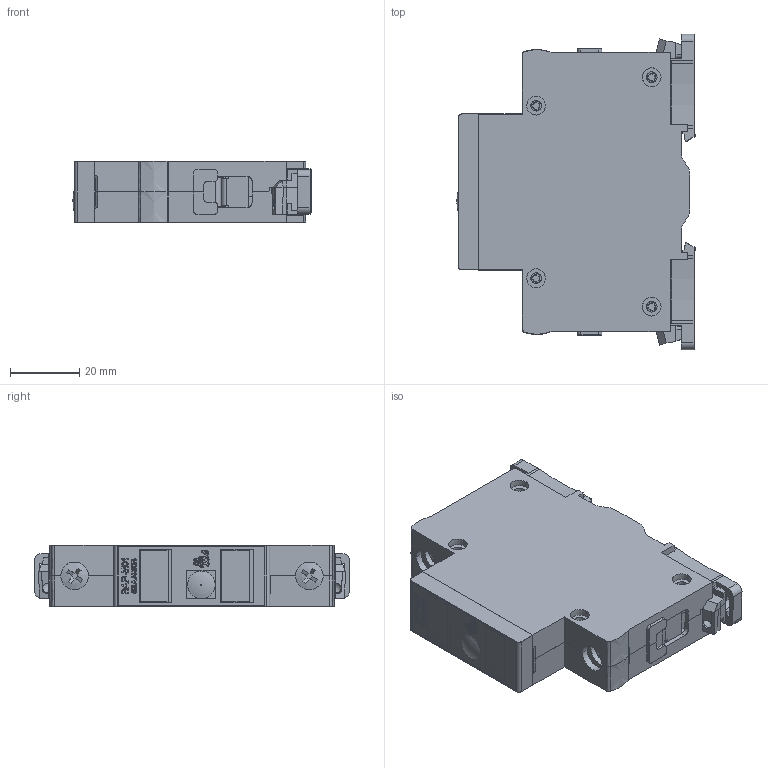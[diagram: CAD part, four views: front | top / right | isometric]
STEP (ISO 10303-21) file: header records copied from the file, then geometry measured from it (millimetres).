
FILE_DESCRIPTION(('STEP AP242'), '1');
FILE_NAME('ﾑ碚濱ﾂﾀﾐ-ﾌ01', '', ('UNSPECIFIED'), ('UNSPECIFIED'), 'C3D Converter', 'C3D Toolkit', '');
FILE_SCHEMA(('AP242_MANAGED_MODEL_BASED_3D_ENGINEERING_MIM_LF { 1 0 10303 442 1 1 4 }'));
Length unit declared in the file: millimetre
Products named in the file (14): MP27ｷЅｰё2 ; UZM80-1P_half_L; UZM80-1P_half_R; YP709BC80A-2018032201ѕІЖｬ; UZM-80_Terminal_Cage_v0; Screw_Headtype_=[)_+_(configurable)_M6_L14_Head10x3.5; Case13-18-23mm_2step_Lock_v01a_Build20140909_1552; Case_UC1-2sR_Face_2024_18mm__FR.FP.0000002
Assembly tree (15 placements, depth 3):
  MP27ｷЅｰё2 
    UZM80-1P_half_L
    UZM80-1P_half_R
    (unnamed)  x2
      YP709BC80A-2018032201ѕІЖｬ
      UZM-80_Terminal_Cage_v0
      Screw_Headtype_=[)_+_(configurable)_M6_L14_Head10x3.5
    (unnamed)
    Case13-18-23mm_2step_Lock_v01a_Build20140909_1552  x2
    Case_UC1-2sR_Face_2024_18mm__FR.FP.0000002
    (unnamed)
    (unnamed)
    (unnamed)
    (unnamed)
Bounding box: 69.02 x 91.4 x 17.75 mm (x, y, z)
Volume: 26254.6 mm3; surface area: 46857.2 mm2
Topology: 18 solids, 18 shells, 3683 faces, 10609 edges, 7003 vertices
Faces by surface type: plane 2892, extrusion 370, cylinder 246, cone 109, bspline 43, torus 13, sphere 10
Full cylindrical faces by diameter (mm): 3 x2, 5 x4, 8 x1, 10 x2
Entity records: 152354 total; most frequent: CARTESIAN_POINT 36812, ORIENTED_EDGE 19682, DIRECTION 15451, EDGE_CURVE 9841, VECTOR 8547, LINE 8177, VERTEX_POINT 6545, EDGE_LOOP 3540
